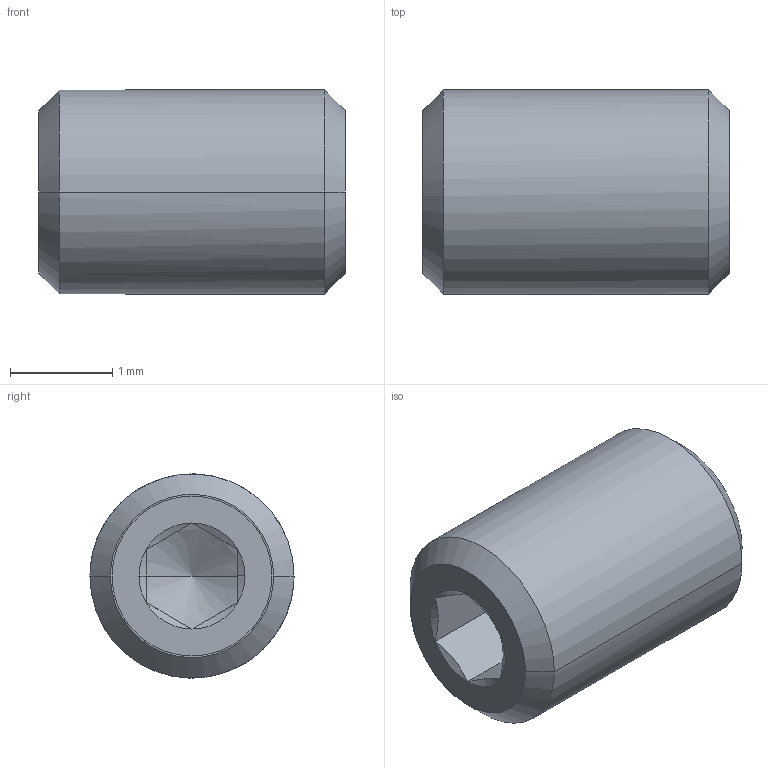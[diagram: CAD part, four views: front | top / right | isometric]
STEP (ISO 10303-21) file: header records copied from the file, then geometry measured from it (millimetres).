
FILE_DESCRIPTION(/* description */ ('(C) Elphel, Inc. 2013. Licensed under CERN OHL v.1.1 or later, see http://ohwr.org/cernohl'),/* implementation_level */ '2;1');
FILE_NAME(/* name */ '0353-99-111.stp',/* time_stamp */ '2013-04-05T16:07:42-06:00',/* author */ (''),/* organization */ ('Elphel, Inc'),/* preprocessor_version */ 'ST-DEVELOPER v14',/* originating_system */ 'VariCAD 2013-1.03; kernel version (20121105)',/* authorisation */ '');
FILE_SCHEMA (('CONFIG_CONTROL_DESIGN'));
Length unit declared in the file: millimetre
Products named in the file (2): 0353-99-111
Assembly tree (1 placements, depth 2):
  0353-99-111
    0353-99-111
Bounding box: 3 x 2 x 2 mm (x, y, z)
Volume: 8.2 mm3; surface area: 27.8 mm2
Topology: 1 solids, 1 shells, 26 faces, 62 edges, 39 vertices
Faces by surface type: cone 14, plane 10, cylinder 2
Entity records: 896 total; most frequent: CARTESIAN_POINT 209, DIRECTION 132, ORIENTED_EDGE 120, EDGE_CURVE 60, AXIS2_PLACEMENT_3D 58, VERTEX_POINT 39, EDGE_LOOP 29, CIRCLE 28
